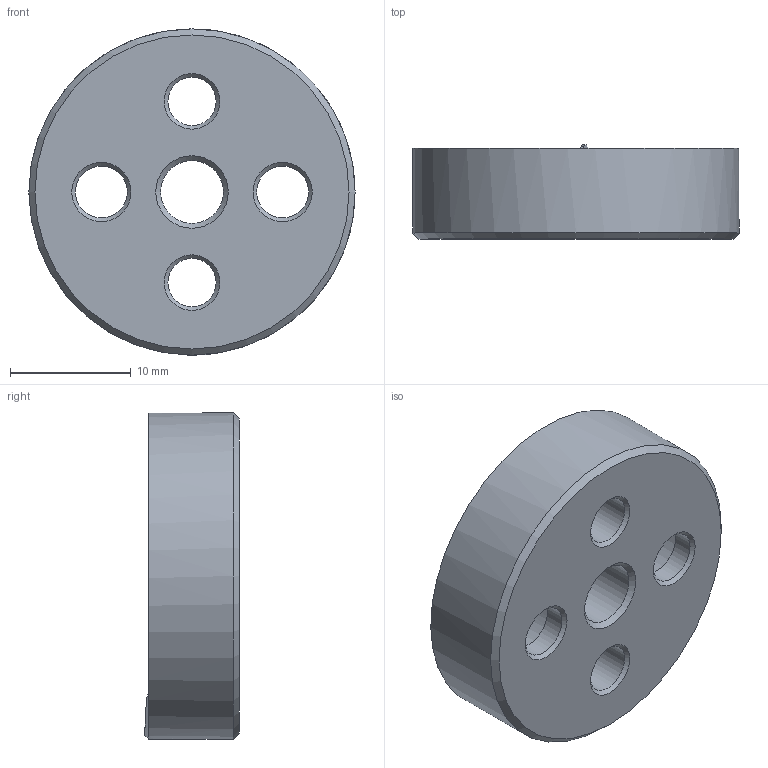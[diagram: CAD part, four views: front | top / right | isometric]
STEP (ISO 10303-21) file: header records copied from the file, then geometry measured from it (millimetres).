
FILE_DESCRIPTION( ( 'STEP AP203' ), '1' );
FILE_NAME( 'C:/Temp/Ganter_Step_05_03_2020/data/3_2/gn187_4/gn187_4_st/Serrated locking plate GN 187.4-27-60-B-ST.stp', '2020-03-13T05:25:38', ( 'License CC BY-ND 4.0' ), ( 'CADENAS' ), ' ', 'PARTsolutions', ' ' );
FILE_SCHEMA( ( 'CONFIG_CONTROL_DESIGN' ) );
Length unit declared in the file: millimetre
Products named in the file (1): _Serrated locking plate GN 187.4-27-60-B-ST
Bounding box: 27 x 7.84 x 27 mm (x, y, z)
Volume: 3135.1 mm3; surface area: 2209.6 mm2
Topology: 1 solids, 1 shells, 36 faces, 94 edges, 60 vertices
Faces by surface type: cone 15, cylinder 12, plane 9
Full cylindrical faces by diameter (mm): 4 x2, 4.3 x2, 5.2 x1, 8.1 x2, 27 x1
Entity records: 1152 total; most frequent: CARTESIAN_POINT 286, DIRECTION 178, ORIENTED_EDGE 146, AXIS2_PLACEMENT_3D 84, EDGE_CURVE 73, EDGE_LOOP 63, VERTEX_POINT 56, FACE_OUTER_BOUND 44
